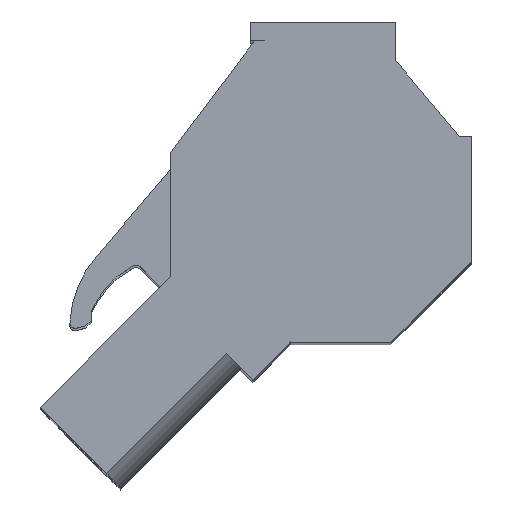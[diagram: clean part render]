
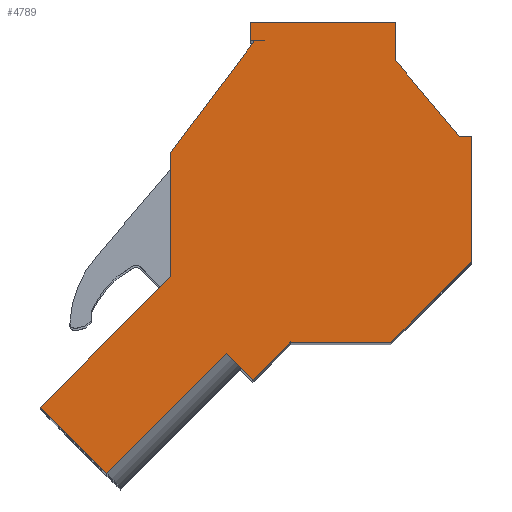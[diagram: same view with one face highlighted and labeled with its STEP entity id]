
A CAD part, top view. The second image highlights one B-rep face of the part: STEP entity #4789.
In plain terms, the highlighted planar face has unit normal (0, 0, 1).
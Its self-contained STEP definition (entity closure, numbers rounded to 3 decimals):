
#4774 = ORIENTED_EDGE ( 'NONE', *, *, #19585, .F. ) ;
#4775 = ORIENTED_EDGE ( 'NONE', *, *, #19619, .F. ) ;
#4776 = ORIENTED_EDGE ( 'NONE', *, *, #19596, .F. ) ;
#4777 = ORIENTED_EDGE ( 'NONE', *, *, #15965, .T. ) ;
#4778 = ORIENTED_EDGE ( 'NONE', *, *, #14822, .T. ) ;
#4779 = ORIENTED_EDGE ( 'NONE', *, *, #19001, .F. ) ;
#4780 = ORIENTED_EDGE ( 'NONE', *, *, #19031, .F. ) ;
#4783 = VERTEX_POINT ( 'NONE', #47884 ) ;
#4788 = EDGE_CURVE ( 'NONE', #18917, #4783, #47879, .T. ) ;
#4789 = ADVANCED_FACE ( 'NONE', ( #47875 ), #47874, .F. ) ;
#4790 = EDGE_LOOP ( 'NONE', ( #4791, #4792, #4793, #4855, #4856, #4774, #4775, #4776, #4777, #4778, #4779, #4780, #4843, #4844, #4845, #4846, #4848, #4849, #4851 ) ) ;
#4791 = ORIENTED_EDGE ( 'NONE', *, *, #18996, .T. ) ;
#4792 = ORIENTED_EDGE ( 'NONE', *, *, #19315, .F. ) ;
#4793 = ORIENTED_EDGE ( 'NONE', *, *, #19910, .F. ) ;
#4795 = EDGE_CURVE ( 'NONE', #4796, #4797, #47869, .T. ) ;
#4796 = VERTEX_POINT ( 'NONE', #47934 ) ;
#4797 = VERTEX_POINT ( 'NONE', #47933 ) ;
#4843 = ORIENTED_EDGE ( 'NONE', *, *, #19433, .F. ) ;
#4844 = ORIENTED_EDGE ( 'NONE', *, *, #19450, .F. ) ;
#4845 = ORIENTED_EDGE ( 'NONE', *, *, #18987, .F. ) ;
#4846 = ORIENTED_EDGE ( 'NONE', *, *, #4847, .T. ) ;
#4847 = EDGE_CURVE ( 'NONE', #18983, #4797, #47975, .T. ) ;
#4848 = ORIENTED_EDGE ( 'NONE', *, *, #4795, .F. ) ;
#4849 = ORIENTED_EDGE ( 'NONE', *, *, #4850, .F. ) ;
#4850 = EDGE_CURVE ( 'NONE', #4783, #4796, #47971, .T. ) ;
#4851 = ORIENTED_EDGE ( 'NONE', *, *, #4788, .F. ) ;
#4855 = ORIENTED_EDGE ( 'NONE', *, *, #19632, .F. ) ;
#4856 = ORIENTED_EDGE ( 'NONE', *, *, #16646, .T. ) ;
#14817 = VERTEX_POINT ( 'NONE', #32892 ) ;
#14822 = EDGE_CURVE ( 'NONE', #14823, #14817, #32949, .T. ) ;
#14823 = VERTEX_POINT ( 'NONE', #32945 ) ;
#15965 = EDGE_CURVE ( 'NONE', #15967, #14823, #34650, .T. ) ;
#15967 = VERTEX_POINT ( 'NONE', #34646 ) ;
#16646 = EDGE_CURVE ( 'NONE', #16648, #16649, #35772, .T. ) ;
#16648 = VERTEX_POINT ( 'NONE', #35768 ) ;
#16649 = VERTEX_POINT ( 'NONE', #35767 ) ;
#18917 = VERTEX_POINT ( 'NONE', #39718 ) ;
#18919 = VERTEX_POINT ( 'NONE', #39712 ) ;
#18969 = VERTEX_POINT ( 'NONE', #39766 ) ;
#18983 = VERTEX_POINT ( 'NONE', #39814 ) ;
#18987 = EDGE_CURVE ( 'NONE', #18983, #18969, #39809, .T. ) ;
#18996 = EDGE_CURVE ( 'NONE', #18917, #18919, #39855, .T. ) ;
#19001 = EDGE_CURVE ( 'NONE', #19032, #14817, #39851, .T. ) ;
#19026 = VERTEX_POINT ( 'NONE', #39866 ) ;
#19031 = EDGE_CURVE ( 'NONE', #19026, #19032, #39924, .T. ) ;
#19032 = VERTEX_POINT ( 'NONE', #39920 ) ;
#19315 = EDGE_CURVE ( 'NONE', #19317, #18919, #40394, .T. ) ;
#19317 = VERTEX_POINT ( 'NONE', #40389 ) ;
#19433 = EDGE_CURVE ( 'NONE', #19452, #19026, #40599, .T. ) ;
#19450 = EDGE_CURVE ( 'NONE', #18969, #19452, #40639, .T. ) ;
#19452 = VERTEX_POINT ( 'NONE', #40635 ) ;
#19585 = EDGE_CURVE ( 'NONE', #19620, #16649, #40765, .T. ) ;
#19596 = EDGE_CURVE ( 'NONE', #15967, #19598, #40812, .T. ) ;
#19598 = VERTEX_POINT ( 'NONE', #40808 ) ;
#19619 = EDGE_CURVE ( 'NONE', #19598, #19620, #40838, .T. ) ;
#19620 = VERTEX_POINT ( 'NONE', #40834 ) ;
#19632 = EDGE_CURVE ( 'NONE', #16648, #19633, #40827, .T. ) ;
#19633 = VERTEX_POINT ( 'NONE', #40823 ) ;
#19910 = EDGE_CURVE ( 'NONE', #19633, #19317, #41196, .T. ) ;
#32892 = CARTESIAN_POINT ( 'NONE',  ( 1.93, 14.75, 0. ) ) ;
#32945 = CARTESIAN_POINT ( 'NONE',  ( 1.25, 14.75, 0. ) ) ;
#32946 = DIRECTION ( 'NONE',  ( 1., 0., 0. ) ) ;
#32947 = VECTOR ( 'NONE', #32946, 1000. ) ;
#32948 = CARTESIAN_POINT ( 'NONE',  ( 2.919, 14.75, 0. ) ) ;
#32949 = LINE ( 'NONE', #32948, #32947 ) ;
#34646 = CARTESIAN_POINT ( 'NONE',  ( 1.25, 15.65, 0. ) ) ;
#34647 = DIRECTION ( 'NONE',  ( 0., -1., 0. ) ) ;
#34648 = VECTOR ( 'NONE', #34647, 1000. ) ;
#34649 = CARTESIAN_POINT ( 'NONE',  ( 1.25, 15.2, 0. ) ) ;
#34650 = LINE ( 'NONE', #34649, #34648 ) ;
#35767 = CARTESIAN_POINT ( 'NONE',  ( 11.45, 10.05, 0. ) ) ;
#35768 = CARTESIAN_POINT ( 'NONE',  ( 12.05, 10.05, 0. ) ) ;
#35769 = DIRECTION ( 'NONE',  ( -1., 0., 0. ) ) ;
#35770 = VECTOR ( 'NONE', #35769, 1000. ) ;
#35771 = CARTESIAN_POINT ( 'NONE',  ( 11.75, 10.05, 0. ) ) ;
#35772 = LINE ( 'NONE', #35771, #35770 ) ;
#39712 = CARTESIAN_POINT ( 'NONE',  ( 3.2, 0., 0. ) ) ;
#39718 = CARTESIAN_POINT ( 'NONE',  ( 3.2, 0.011, 0. ) ) ;
#39766 = CARTESIAN_POINT ( 'NONE',  ( -2.669, 3.193, 0. ) ) ;
#39806 = DIRECTION ( 'NONE',  ( 0.707, 0.707, 0. ) ) ;
#39807 = VECTOR ( 'NONE', #39806, 1000. ) ;
#39808 = CARTESIAN_POINT ( 'NONE',  ( -2.669, 3.193, 0. ) ) ;
#39809 = LINE ( 'NONE', #39808, #39807 ) ;
#39814 = CARTESIAN_POINT ( 'NONE',  ( -9.033, -3.171, 0. ) ) ;
#39848 = DIRECTION ( 'NONE',  ( 0., 1., 0. ) ) ;
#39849 = VECTOR ( 'NONE', #39848, 1000. ) ;
#39850 = CARTESIAN_POINT ( 'NONE',  ( 1.93, 4.613, 0. ) ) ;
#39851 = LINE ( 'NONE', #39850, #39849 ) ;
#39852 = DIRECTION ( 'NONE',  ( 0., -1., 0. ) ) ;
#39853 = VECTOR ( 'NONE', #39852, 1000. ) ;
#39854 = CARTESIAN_POINT ( 'NONE',  ( 3.2, 0.006, 0. ) ) ;
#39855 = LINE ( 'NONE', #39854, #39853 ) ;
#39866 = CARTESIAN_POINT ( 'NONE',  ( 1.437, 14.724, 0. ) ) ;
#39920 = CARTESIAN_POINT ( 'NONE',  ( 1.93, 14.724, 0. ) ) ;
#39921 = DIRECTION ( 'NONE',  ( 1., 0., 0. ) ) ;
#39922 = VECTOR ( 'NONE', #39921, 1000. ) ;
#39923 = CARTESIAN_POINT ( 'NONE',  ( 1.509, 14.724, 0. ) ) ;
#39924 = LINE ( 'NONE', #39923, #39922 ) ;
#40389 = CARTESIAN_POINT ( 'NONE',  ( 8.1, 0., 0. ) ) ;
#40391 = DIRECTION ( 'NONE',  ( -1., 0., 0. ) ) ;
#40392 = VECTOR ( 'NONE', #40391, 1000. ) ;
#40393 = CARTESIAN_POINT ( 'NONE',  ( 1.509, 0., 0. ) ) ;
#40394 = LINE ( 'NONE', #40393, #40392 ) ;
#40596 = DIRECTION ( 'NONE',  ( 0.602, 0.799, 0. ) ) ;
#40597 = VECTOR ( 'NONE', #40596, 1000. ) ;
#40598 = CARTESIAN_POINT ( 'NONE',  ( 1.445, 14.733, 0. ) ) ;
#40599 = LINE ( 'NONE', #40598, #40597 ) ;
#40635 = CARTESIAN_POINT ( 'NONE',  ( -2.669, 9.274, 0. ) ) ;
#40636 = DIRECTION ( 'NONE',  ( 0., 1., 0. ) ) ;
#40637 = VECTOR ( 'NONE', #40636, 1000. ) ;
#40638 = CARTESIAN_POINT ( 'NONE',  ( -2.669, 4.613, 0. ) ) ;
#40639 = LINE ( 'NONE', #40638, #40637 ) ;
#40761 = DIRECTION ( 'NONE',  ( 0.642, -0.767, 0. ) ) ;
#40762 = VECTOR ( 'NONE', #40761, 1000. ) ;
#40764 = CARTESIAN_POINT ( 'NONE',  ( 8.35, 13.75, 0. ) ) ;
#40765 = LINE ( 'NONE', #40764, #40762 ) ;
#40808 = CARTESIAN_POINT ( 'NONE',  ( 8.35, 15.65, 0. ) ) ;
#40809 = DIRECTION ( 'NONE',  ( 1., 0., 0. ) ) ;
#40810 = VECTOR ( 'NONE', #40809, 1000. ) ;
#40811 = CARTESIAN_POINT ( 'NONE',  ( 1.509, 15.65, 0. ) ) ;
#40812 = LINE ( 'NONE', #40811, #40810 ) ;
#40823 = CARTESIAN_POINT ( 'NONE',  ( 12.05, 3.95, 0. ) ) ;
#40824 = DIRECTION ( 'NONE',  ( 0., -1., 0. ) ) ;
#40825 = VECTOR ( 'NONE', #40824, 1000. ) ;
#40826 = CARTESIAN_POINT ( 'NONE',  ( 12.05, 4.613, 0. ) ) ;
#40827 = LINE ( 'NONE', #40826, #40825 ) ;
#40834 = CARTESIAN_POINT ( 'NONE',  ( 8.35, 13.75, 0. ) ) ;
#40835 = DIRECTION ( 'NONE',  ( 0., -1., 0. ) ) ;
#40836 = VECTOR ( 'NONE', #40835, 1000. ) ;
#40837 = CARTESIAN_POINT ( 'NONE',  ( 8.35, 4.613, 0. ) ) ;
#40838 = LINE ( 'NONE', #40837, #40836 ) ;
#41193 = DIRECTION ( 'NONE',  ( -0.707, -0.707, 0. ) ) ;
#41194 = VECTOR ( 'NONE', #41193, 1000. ) ;
#41195 = CARTESIAN_POINT ( 'NONE',  ( 12.05, 3.95, 0. ) ) ;
#41196 = LINE ( 'NONE', #41195, #41194 ) ;
#47868 = CARTESIAN_POINT ( 'NONE',  ( -5.78, -6.424, 0. ) ) ;
#47869 = LINE ( 'NONE', #47868, #47936 ) ;
#47870 = DIRECTION ( 'NONE',  ( -1., 0., 0. ) ) ;
#47871 = DIRECTION ( 'NONE',  ( 0., 0., -1. ) ) ;
#47872 = CARTESIAN_POINT ( 'NONE',  ( 12.05, -6.424, 0. ) ) ;
#47873 = AXIS2_PLACEMENT_3D ( 'NONE', #47872, #47871, #47870 ) ;
#47874 = PLANE ( 'NONE',  #47873 ) ;
#47875 = FACE_OUTER_BOUND ( 'NONE', #4790, .T. ) ;
#47876 = DIRECTION ( 'NONE',  ( -0.707, -0.707, 0. ) ) ;
#47877 = VECTOR ( 'NONE', #47876, 1000. ) ;
#47878 = CARTESIAN_POINT ( 'NONE',  ( 1.362, -1.827, 0. ) ) ;
#47879 = LINE ( 'NONE', #47878, #47877 ) ;
#47884 = CARTESIAN_POINT ( 'NONE',  ( 1.362, -1.827, 0. ) ) ;
#47933 = CARTESIAN_POINT ( 'NONE',  ( -5.78, -6.424, 0. ) ) ;
#47934 = CARTESIAN_POINT ( 'NONE',  ( 0.089, -0.555, 0. ) ) ;
#47935 = DIRECTION ( 'NONE',  ( -0.707, -0.707, 0. ) ) ;
#47936 = VECTOR ( 'NONE', #47935, 1000. ) ;
#47968 = DIRECTION ( 'NONE',  ( -0.707, 0.707, 0. ) ) ;
#47969 = VECTOR ( 'NONE', #47968, 1000. ) ;
#47970 = CARTESIAN_POINT ( 'NONE',  ( 0.725, -1.191, 0. ) ) ;
#47971 = LINE ( 'NONE', #47970, #47969 ) ;
#47972 = DIRECTION ( 'NONE',  ( 0.707, -0.707, 0. ) ) ;
#47973 = VECTOR ( 'NONE', #47972, 1000. ) ;
#47974 = CARTESIAN_POINT ( 'NONE',  ( -9.033, -3.171, 0. ) ) ;
#47975 = LINE ( 'NONE', #47974, #47973 ) ;
